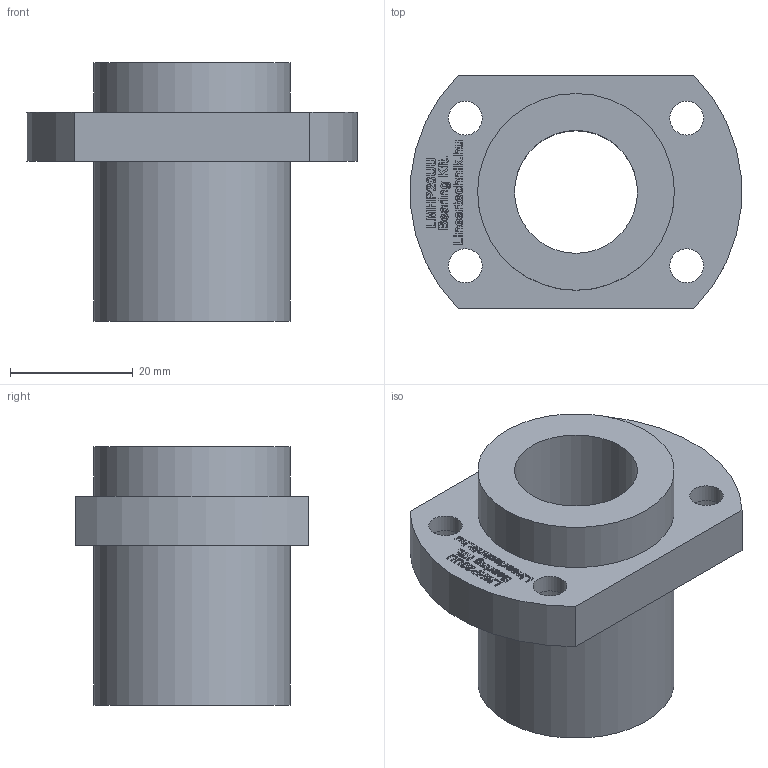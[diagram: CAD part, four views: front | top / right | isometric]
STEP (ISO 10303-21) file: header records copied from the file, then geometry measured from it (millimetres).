
FILE_DESCRIPTION(/* description */ (''),/* implementation_level */ '2;1');
FILE_NAME(/* name */ 'LMHP20UU',/* time_stamp */ '2019-07-09T13:43:05+02:00',/* author */ ('VĂ©gh MĂˇtĂ©'),/* organization */ ('Bearing Kft'),/* preprocessor_version */ 'ST-DEVELOPER v16.7',/* originating_system */ 'DEX',/* authorisation */ $);
FILE_SCHEMA (('AUTOMOTIVE_DESIGN {1 0 10303 214 3 1 1}'));
Length unit declared in the file: millimetre
Products named in the file (1): LMHP20UU
Bounding box: 53.8 x 38 x 42 mm (x, y, z)
Volume: 27510.1 mm3; surface area: 11058.3 mm2
Topology: 1 solids, 1 shells, 330 faces, 826 edges, 552 vertices
Faces by surface type: plane 254, bspline 61, cylinder 15
Full cylindrical faces by diameter (mm): 5.5 x4, 9 x4, 20 x1, 32 x2
Entity records: 12732 total; most frequent: CARTESIAN_POINT 5230, ORIENTED_EDGE 1616, DIRECTION 1256, EDGE_CURVE 808, LINE 656, VECTOR 656, VERTEX_POINT 548, EDGE_LOOP 408
